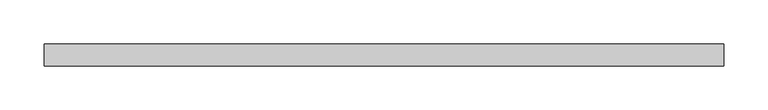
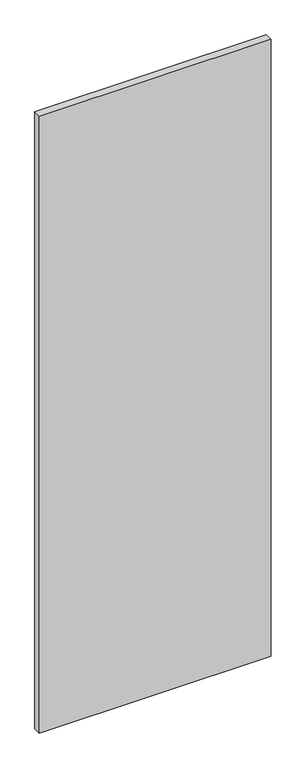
"""IFC4 building model written with IfcOpenShell, lengths in millimetres: plate geometry, 系统嵌板 : 玻璃."""

from ifc_helpers import new_model, si_unit, origin, origin_with_axes, place, context, project, spatial, polyline, outline, extrude, source, transform, mapped, element, save


def plate_9e1ff7f5(model_context):
    return source(origin(), model_context, "Body", "SweptSolid", [
        extrude(outline(polyline([(385.9482126, -12.5), (-385.9482126, -12.5), (-385.9482126, 12.5), (385.9482126, 12.5), (385.9482126, -12.5)])), origin_with_axes(), (0.0, 0.0, 1.0), 2170.0),
    ])


if __name__ == "__main__":
    model = new_model("IFC4")
    model_context = context("Model", 3, world=origin())
    ifc_project = project(units=[si_unit("LENGTHUNIT", "METRE", prefix="MILLI")], contexts=[model_context])
    site = spatial("IfcSite", under=ifc_project)
    building = spatial("IfcBuilding", under=site)
    placement = place(None, origin())
    plate_shape = plate_9e1ff7f5(model_context)
    element("IfcPlate", 1, ObjectType="系统嵌板 : 玻璃", at=placement, inside=building, context=model_context, shape_type="MappedRepresentation", body=[
        mapped(plate_shape, transform((0.0, 0.0, 0.0), x_axis=(1.0, 0.0, 0.0), y_axis=(0.0, 1.0, 0.0), z_axis=(0.0, 0.0, 1.0))),
    ])
    save(model, "model.ifc")
